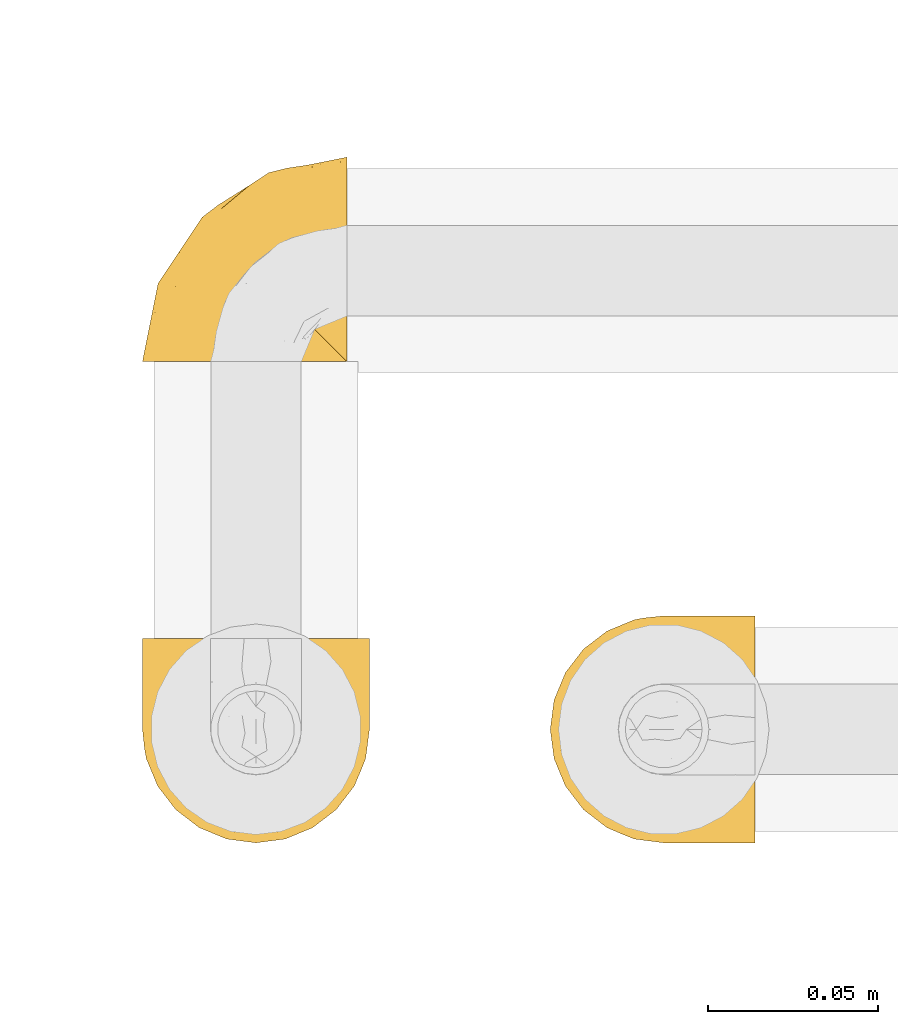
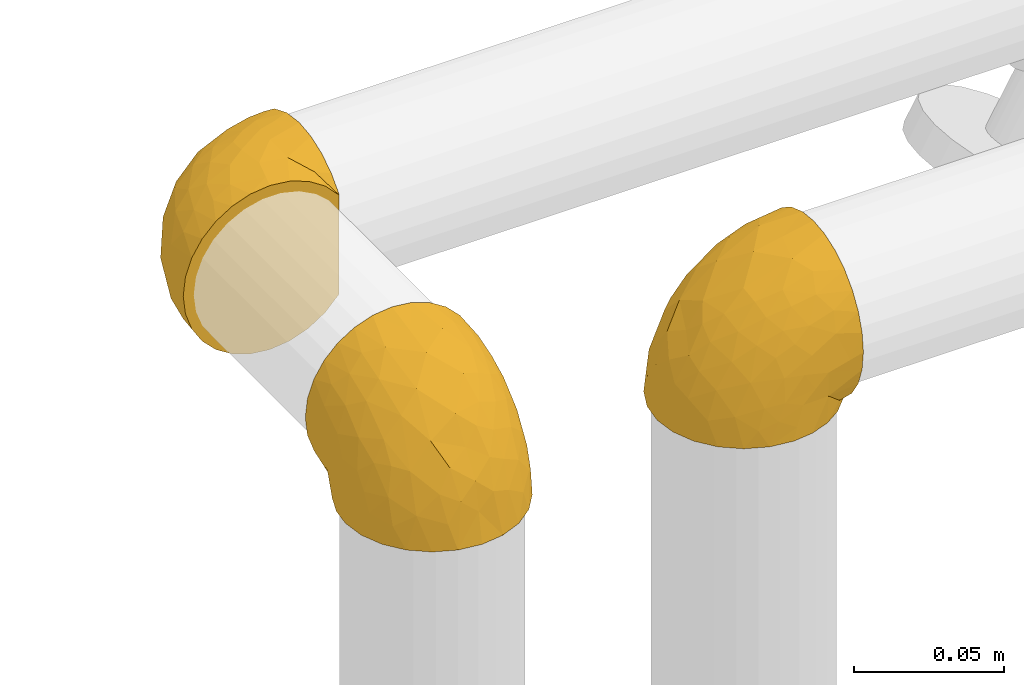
# One storey, part 14 of 108: 3 coverings.
"""IFC2X3 building model written with IfcOpenShell, lengths in millimetres."""

from ifc_helpers import new_model, entity, si_unit, converted_unit, derived_unit, direction, frame, origin_with_axes, place, context, subcontext, project, spatial, open_shell, surface_model, source, transform, mapped, element, save


model = new_model("IFC2X3")

# Units and contexts
model_context = context("Model", 3, precision=0.01, world=frame((0.0, 4.29681676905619e-09, 0.0)), true_north=direction((4.01073788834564e-13, 1.0)))
plan_context = context("Plan", 3, precision=0.01, world=frame((0.0, 4.29681676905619e-09, 0.0)), true_north=direction((4.01073788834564e-13, 1.0)))
body_context = subcontext(model_context, "Body", "Model", "MODEL_VIEW")
ifc_project = project(units=[converted_unit("PLANEANGLEUNIT", "DEGREE", entity("IfcPositiveLengthMeasure", 0.0174532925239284), si_unit("PLANEANGLEUNIT", "RADIAN"), dimensions=[0, 0, 0, 0, 0, 0, 0]), si_unit("AREAUNIT", "SQUARE_METRE"), si_unit("LENGTHUNIT", "METRE", prefix="MILLI"), si_unit("MASSUNIT", "GRAM", prefix="KILO"), si_unit("POWERUNIT", "WATT"), si_unit("PRESSUREUNIT", "PASCAL", prefix="KILO"), si_unit("FORCEUNIT", "NEWTON", prefix="KILO"), si_unit("ELECTRICVOLTAGEUNIT", "VOLT"), si_unit("ELECTRICCURRENTUNIT", "AMPERE"), si_unit("THERMODYNAMICTEMPERATUREUNIT", "DEGREE_CELSIUS"), si_unit("TIMEUNIT", "SECOND"), si_unit("VOLUMEUNIT", "CUBIC_METRE"), derived_unit("LINEARVELOCITYUNIT", [(si_unit("LENGTHUNIT", "METRE"), 1), (si_unit("TIMEUNIT", "SECOND"), -1)]), derived_unit("VOLUMETRICFLOWRATEUNIT", [(si_unit("VOLUMEUNIT", "CUBIC_METRE"), 1), (si_unit("TIMEUNIT", "SECOND"), -1)]), derived_unit("THERMALTRANSMITTANCEUNIT", [(si_unit("POWERUNIT", "WATT"), 1), (si_unit("THERMODYNAMICTEMPERATUREUNIT", "KELVIN"), -1), (si_unit("AREAUNIT", "SQUARE_METRE"), -1)]), derived_unit("SOUNDPRESSUREUNIT", [(si_unit("PRESSUREUNIT", "PASCAL"), 1)])], contexts=[model_context, plan_context])

# Site, building, storey
site_placement = place(None, frame((0.0, -4.29681676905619e-09, 0.0), z_axis=(0.0, 0.0, 1.0), x_axis=(1.0, 0.0, 0.0)))
site = spatial("IfcSite", under=ifc_project, at=site_placement, CompositionType="ELEMENT")
building_placement = place(site_placement, frame((0.0, 4.29681676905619e-09, 0.0), z_axis=(0.0, 0.0, 1.0), x_axis=(1.0, 0.0, 0.0)))
building = spatial("IfcBuilding", under=site, at=building_placement, Name="mc-building", CompositionType="ELEMENT")
storey_placement = place(building_placement, frame((0.0, 0.0, 210200.0), z_axis=(0.0, 0.0, 1.0), x_axis=(1.0, 0.0, 0.0)))
storey = spatial("IfcBuildingStorey", under=building, at=storey_placement, Name="Nivå F - 0,7 m", CompositionType="ELEMENT", Elevation=210200.0)

# Coverings
shared_shape_1 = source(origin_with_axes(), body_context, "Body", "SurfaceModel", [
    surface_model("IfcShellBasedSurfaceModel", [(-26.59933, 26.8, -20.19989), (14.49698, 26.8, 30.08982), (20.82965, 26.8, 26.10911), (7.43591, 26.8, 32.56174), (30.09469, 26.8, 14.48688), (26.11705, 26.8, 20.8197), (-7.61575, 26.8, 32.52015), (0.0, 26.8, 33.4), (-14.84079, 26.8, 29.92175), (-21.28222, 26.8, 25.74155), (-26.59933, 26.8, 20.19989), (32.56356, 26.8, 7.42795), (32.56174, 26.8, -7.43591), (20.8197, 26.8, -26.11705), (30.08982, 26.8, -14.49698), (26.10911, 26.8, -20.82965), (14.48688, 26.8, -30.09469), (-14.85378, 26.8, -29.9153), (-21.29273, 26.8, -25.73285), (-7.62903, 26.8, -32.51704), (0.0, 26.8, -33.4), (7.42795, 26.8, -32.56356), (33.4, 26.8, 0.0), (-26.8, 26.59933, 20.19989), (-26.8, 26.59933, -20.19989), (-26.8, 21.28541, -25.73891), (-26.8, -16.7, 28.92525), (-26.8, 7.625, -32.51798), (-26.8, 14.84729, -29.91852), (-26.8, 21.28541, 25.73891), (-26.8, 14.84729, 29.91852), (-26.8, 7.625, 32.51798), (-26.8, 0.0, 33.4), (-26.8, 0.0, -33.4), (-26.8, -8.64456, -32.26192), (-26.8, -16.7, -28.92525), (-26.8, -28.92525, -16.7), (-26.8, -23.61737, -23.61737), (-26.8, -32.26192, 8.64456), (-26.8, -32.26192, -8.64456), (-26.8, -28.92525, 16.7), (-26.8, -23.61737, 23.61737), (-26.8, -8.64456, 32.26192), (-26.8, -33.4, 0.0), (-26.65811, 26.65811, 20.19989), (-26.65811, 26.65811, -20.19989), (-3.59052, 13.4, -33.4), (-14.10738, 14.10738, -32.20619), (-20.71031, 20.7088, -28.01428), (-13.4, 3.59052, -33.4), (22.62475, -5.33199, -9.04686), (29.67814, 12.24249, -11.03588), (28.81755, 3.76246, 0.0), (-17.41333, -5.40422, -32.71199), (-10.81992, -2.87751, -32.67817), (-2.50397, -12.95586, -26.90413), (-6.20974, -22.36013, -20.33263), (-14.60118, -18.72663, -26.498), (-11.65277, -9.76865, -30.85758), (-19.92672, -12.18029, -30.85758), (14.01675, 8.91063, -28.28367), (16.95201, 18.32663, -28.28367), (22.01758, 14.21824, -23.62187), (-8.49526, 8.49526, -33.4), (-1.88305, 4.56584, -32.74246), (-1.39535, 21.5925, -33.4), (20.38741, -4.44287, -15.09757), (-9.28969, -30.19143, -6.19338), (-11.80357, -28.87318, -12.78163), (31.02556, 14.86288, 0.0), (-17.43006, -25.66791, -20.33263), (12.40454, -12.19742, -17.42016), (16.99405, -3.26243, -20.56333), (4.42213, 7.82936, -31.95022), (9.82976, 17.35952, -31.52731), (27.27262, 16.3281, -17.77511), (5.37566, -4.05607, -28.27426), (-1.66631, -2.38611, -31.27747), (19.74712, 5.19083, -22.68044), (23.64485, 4.69058, -17.77511), (15.71469, -13.49712, -10.28263), (-1.78193, -24.90857, -13.28821), (1.34186, -25.45443, -7.48471), (7.55106, -19.88386, -12.02521), (11.06736, -19.34151, -5.81066), (15.76783, -15.76783, 0.0), (22.29269, -6.00269, 0.0), (-14.86288, -31.02556, 0.0), (3.58657, -16.57256, -20.76855), (9.12505, -8.56732, -23.62187), (-21.5925, 1.39535, -33.4), (13.38763, 0.29861, -25.69445), (9.05147, 2.85542, -29.14565), (-3.76246, -28.81755, 0.0), (6.00269, -22.29269, 0.0), (-16.50258, -11.41869, 30.85758), (-9.29926, -30.16029, 6.36362), (10.03572, -18.35732, 11.17328), (22.63758, -5.31419, 9.0431), (22.02718, 14.21939, 23.61286), (27.27983, 16.33184, 17.76497), (-8.58328, -16.66994, 26.498), (-13.36918, -24.778, 20.33263), (1.18641, -19.1955, 19.60506), (14.02917, 8.91373, 28.2773), (16.96281, 18.32909, 28.2773), (9.83902, 17.35883, 31.52411), (16.35267, -8.40595, 16.75726), (-14.05627, -3.96609, 32.76122), (-13.4, 3.59052, 33.4), (-20.1, 1.79526, 33.4), (-1.39535, 21.5925, 33.4), (-16.50979, -30.46993, 11.41984), (-18.50904, -19.59768, 26.498), (1.90314, -25.11025, 7.62786), (-5.9027, -26.93732, 12.78163), (29.68263, 12.24709, 11.02673), (1.27035, -8.97434, 27.69292), (-9.65652, -8.34207, 31.05242), (23.65471, 4.69721, 17.76497), (-8.70974, -0.6027, 32.85017), (-2.69469, 3.074, 32.65331), (-3.59052, 13.4, 33.4), (-8.49526, 8.49526, 33.4), (17.70815, 3.10689, 23.61312), (4.42481, 7.81804, 31.94773), (-20.55519, -5.70678, 32.80023), (9.14496, -8.55993, 23.61286), (7.10655, -0.78083, 28.80438), (1.84006, -14.23266, 23.98947), (-3.56904, -4.10027, 31.22385), (-14.10785, 14.10785, 32.20601), (-20.70999, 20.70913, 28.01428)], [open_shell([[[0, 1, 2]], [[3, 1, 0]], [[4, 2, 5]], [[2, 4, 0]], [[6, 7, 8]], [[0, 7, 3]], [[9, 0, 10]], [[8, 7, 0]], [[9, 8, 0]], [[4, 11, 0]], [[0, 11, 12]], [[13, 12, 14]], [[12, 13, 0]], [[13, 14, 15]], [[16, 0, 13]], [[0, 17, 18]], [[17, 0, 19]], [[0, 20, 19]], [[20, 0, 21]], [[0, 16, 21]], [[12, 11, 22]], [[23, 24, 25]], [[26, 23, 25]], [[27, 25, 28]], [[25, 27, 26]], [[29, 23, 30]], [[23, 31, 30]], [[31, 23, 32]], [[32, 23, 26]], [[27, 33, 34]], [[34, 35, 36]], [[34, 36, 26]], [[36, 35, 37]], [[38, 36, 39]], [[26, 40, 41]], [[42, 32, 26]], [[36, 40, 26]], [[36, 38, 40]], [[43, 38, 39]], [[26, 27, 34]], [[24, 23, 44]], [[45, 24, 44]], [[10, 0, 44]], [[45, 44, 0]], [[46, 47, 19]], [[25, 48, 28]], [[33, 27, 49]], [[49, 27, 47]], [[47, 28, 48]], [[25, 24, 45]], [[45, 0, 18]], [[17, 48, 18]], [[47, 46, 49]], [[17, 19, 47]], [[19, 20, 46]], [[47, 48, 17]], [[27, 28, 47]], [[45, 18, 48]], [[48, 25, 45]], [[50, 51, 52]], [[53, 49, 54]], [[55, 56, 57]], [[58, 59, 53]], [[60, 61, 62]], [[63, 64, 54]], [[65, 20, 21]], [[51, 50, 66]], [[67, 39, 68]], [[51, 12, 69]], [[70, 36, 37]], [[35, 59, 57]], [[35, 57, 37]], [[36, 70, 68]], [[59, 35, 34]], [[71, 72, 66]], [[73, 46, 74]], [[65, 21, 74]], [[15, 14, 75]], [[62, 13, 15]], [[74, 46, 65]], [[74, 21, 16]], [[61, 74, 16]], [[76, 55, 77]], [[74, 60, 73]], [[78, 79, 72]], [[78, 62, 79]], [[71, 66, 80]], [[67, 81, 82]], [[51, 14, 12]], [[52, 51, 69]], [[79, 75, 51]], [[36, 68, 39]], [[75, 62, 15]], [[83, 84, 82]], [[13, 61, 16]], [[81, 83, 82]], [[85, 50, 86]], [[39, 67, 87]], [[71, 88, 89]], [[54, 64, 77]], [[55, 57, 58]], [[70, 57, 56]], [[34, 33, 90]], [[60, 91, 92]], [[73, 77, 64]], [[12, 22, 69]], [[51, 75, 14]], [[62, 75, 79]], [[62, 61, 13]], [[74, 61, 60]], [[77, 55, 58]], [[55, 89, 88]], [[54, 58, 53]], [[91, 76, 92]], [[87, 67, 93]], [[87, 43, 39]], [[84, 85, 94]], [[94, 93, 82]], [[67, 82, 93]], [[80, 84, 83]], [[94, 82, 84]], [[81, 67, 68]], [[68, 56, 81]], [[88, 81, 56]], [[71, 80, 83]], [[80, 50, 85]], [[83, 81, 88]], [[72, 71, 89]], [[83, 88, 71]], [[55, 88, 56]], [[91, 72, 89]], [[66, 72, 79]], [[76, 91, 89]], [[78, 60, 62]], [[55, 76, 89]], [[92, 77, 73]], [[51, 66, 79]], [[66, 50, 80]], [[72, 91, 78]], [[60, 78, 91]], [[77, 92, 76]], [[73, 64, 46]], [[73, 60, 92]], [[57, 70, 37]], [[68, 70, 56]], [[53, 34, 90]], [[57, 59, 58]], [[34, 53, 59]], [[49, 53, 90]], [[63, 54, 49]], [[77, 58, 54]], [[50, 52, 86]], [[85, 84, 80]], [[46, 64, 63]], [[26, 95, 42]], [[93, 96, 87]], [[97, 85, 98]], [[96, 38, 87]], [[99, 100, 5]], [[101, 102, 103]], [[104, 105, 106]], [[107, 103, 97]], [[108, 109, 110]], [[3, 111, 106]], [[112, 102, 40]], [[3, 7, 111]], [[41, 113, 26]], [[26, 113, 95]], [[1, 3, 106]], [[114, 97, 115]], [[98, 52, 116]], [[101, 117, 118]], [[119, 100, 99]], [[2, 99, 5]], [[38, 96, 112]], [[116, 4, 100]], [[116, 69, 11]], [[2, 1, 105]], [[108, 120, 109]], [[121, 122, 123]], [[124, 119, 99]], [[104, 106, 125]], [[106, 122, 125]], [[4, 116, 11]], [[40, 102, 41]], [[105, 99, 2]], [[98, 116, 119]], [[124, 99, 104]], [[98, 107, 97]], [[4, 5, 100]], [[98, 85, 86]], [[122, 106, 111]], [[95, 108, 126]], [[127, 128, 117]], [[128, 104, 125]], [[103, 102, 115]], [[113, 102, 101]], [[123, 120, 121]], [[128, 127, 124]], [[97, 103, 115]], [[129, 127, 117]], [[114, 115, 96]], [[98, 119, 107]], [[69, 116, 52]], [[69, 22, 11]], [[42, 126, 32]], [[116, 100, 119]], [[106, 105, 1]], [[99, 105, 104]], [[121, 128, 125]], [[120, 123, 109]], [[117, 128, 130]], [[38, 43, 87]], [[94, 114, 93]], [[96, 115, 112]], [[97, 94, 85]], [[93, 114, 96]], [[94, 97, 114]], [[102, 112, 115]], [[40, 38, 112]], [[126, 108, 110]], [[118, 108, 95]], [[124, 107, 119]], [[103, 107, 127]], [[32, 126, 110]], [[95, 126, 42]], [[128, 124, 104]], [[107, 124, 127]], [[118, 117, 130]], [[129, 101, 103]], [[102, 113, 41]], [[95, 113, 101]], [[101, 118, 95]], [[120, 118, 130]], [[118, 120, 108]], [[120, 130, 121]], [[128, 121, 130]], [[122, 121, 125]], [[101, 129, 117]], [[103, 127, 129]], [[86, 52, 98]], [[31, 32, 109]], [[131, 8, 132]], [[31, 131, 30]], [[132, 29, 30]], [[23, 29, 44]], [[122, 131, 109]], [[122, 7, 6]], [[31, 109, 131]], [[132, 44, 29]], [[8, 9, 132]], [[9, 10, 44]], [[44, 132, 9]], [[6, 8, 131]], [[122, 6, 131]], [[132, 30, 131]]])]),
])
covering_1_placement = place(storey_placement, frame((343668.98104, 460323.91341, 2545.47687000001), z_axis=(0.0, 1.0, 0.0), x_axis=(0.0, 0.0, 1.0)))
element("IfcCovering", 1, at=covering_1_placement, inside=storey, Name="BI10T - Cellegummi 18-32 mm kalde rør", PredefinedType="INSULATION", context=body_context, shape_type="MappedRepresentation", body=[
    mapped(shared_shape_1, transform((0.0, 0.0, 0.0), scale=1.0)),
])
shared_shape_2 = source(origin_with_axes(), body_context, "Body", "SurfaceModel", [
    surface_model("IfcShellBasedSurfaceModel", [(14.50157, 26.79293, 30.08982), (20.83424, 26.79184, 26.10911), (30.09928, 26.79025, 14.48688), (-26.59474, 26.79997, -20.19989), (0.00459, 26.79541, 33.4), (26.12164, 26.79094, 20.8197), (-7.61116, 26.79671, 32.52015), (-14.8362, 26.79795, 29.92175), (7.4405, 26.79414, 32.56174), (-26.59474, 26.79997, 20.19989), (-21.27762, 26.79905, 25.74155), (32.56815, 26.78983, 7.42795), (33.40459, 26.78969, 0.0), (32.56634, 26.78983, -7.43591), (30.09441, 26.79025, -14.49698), (20.82429, 26.79184, -26.11705), (14.49147, 26.79293, -30.09469), (26.1137, 26.79094, -20.82965), (-14.84919, 26.79795, -29.9153), (-21.28814, 26.79906, -25.73285), (-7.62444, 26.79672, -32.51704), (0.00459, 26.79541, -33.4), (7.43255, 26.79414, -32.56356), (-26.79541, 26.59933, 20.19989), (-26.79541, 26.59933, -20.19989), (-26.79541, 21.28541, -25.73891), (-26.79541, -16.7, 28.92525), (-26.79541, 7.625, -32.51798), (-26.79541, 14.84729, -29.91852), (-26.79541, 21.28541, 25.73891), (-26.79541, 14.84729, 29.91852), (-26.79541, 7.625, 32.51798), (-26.79541, 0.0, 33.4), (-26.79541, 0.0, -33.4), (-26.79541, -8.64456, -32.26192), (-26.79541, -16.7, -28.92525), (-26.79541, -28.92525, -16.7), (-26.79541, -23.61737, -23.61737), (-26.79541, -32.26192, 8.64456), (-26.79541, -32.26192, -8.64456), (-26.79541, -28.92525, 16.7), (-26.79541, -23.61737, 23.61737), (-26.79541, -8.64456, 32.26192), (-26.79541, -33.4, 0.0), (-26.65353, 26.6581, 20.19989), (-26.65353, 26.6581, -20.19989), (-3.58746, 13.39735, -33.4), (-14.10312, 14.10553, -32.20649), (-20.70624, 20.70828, -28.01428), (-13.39674, 3.58975, -33.4), (22.62329, -5.34155, -9.04638), (29.68024, 12.23282, -11.03588), (28.81918, 3.75531, 0.0), (-17.40908, -5.40436, -32.71198), (-10.81569, -2.87783, -32.67814), (-2.50277, -12.9567, -26.9049), (-6.20934, -22.36188, -20.33263), (-14.5968, -18.72668, -26.498), (-11.6487, -9.76887, -30.85758), (-19.92244, -12.18035, -30.85758), (14.01828, 8.90366, -28.28367), (16.95515, 18.31914, -28.28367), (22.02002, 14.20989, -23.62187), (-8.4921, 8.49355, -33.4), (-1.88189, 4.56182, -32.74244), (-1.3915, 21.58809, -33.4), (20.3843, -4.45374, -15.09839), (-9.28633, -30.19178, -6.19357), (-11.80058, -28.87361, -12.78163), (31.02836, 14.85291, 0.0), (-17.42795, -25.66835, -20.33263), (12.40552, -12.20028, -17.42106), (16.99363, -3.26677, -20.56546), (4.42338, 7.82396, -31.95023), (9.83273, 17.35325, -31.52731), (27.27542, 16.31885, -17.77511), (5.37376, -4.06498, -28.27333), (-1.66342, -2.38927, -31.27699), (19.75012, 5.18516, -22.67942), (23.64566, 4.68196, -17.77511), (15.71323, -13.50262, -10.28451), (-1.78102, -24.90997, -13.289), (1.34349, -25.45544, -7.48693), (7.55068, -19.88625, -12.02784), (11.06831, -19.34413, -5.8123), (15.76877, -15.77147, 0.0), (22.29397, -6.00808, 0.0), (-14.85822, -31.02581, 0.0), (3.58709, -16.57669, -20.76723), (9.12361, -8.57344, -23.62187), (-21.58786, 1.3952, -33.4), (13.3847, 0.29091, -25.69614), (9.04677, 2.85043, -29.14842), (-3.76025, -28.81854, 0.0), (6.00426, -22.29501, 0.0), (-16.49908, -11.41898, 30.85758), (-9.29591, -30.16061, 6.3639), (10.03611, -18.35986, 11.17522), (22.63612, -5.32374, 9.04263), (22.02961, 14.21103, 23.61286), (27.28263, 16.32259, 17.76497), (-8.58239, -16.6715, 26.498), (-13.36463, -24.77801, 20.33263), (1.18808, -19.19802, 19.60419), (14.0307, 8.90675, 28.2773), (16.96595, 18.32161, 28.2773), (9.842, 17.35256, 31.52411), (16.35499, -8.41017, 16.7557), (-14.053, -3.96663, 32.76122), (-13.39674, 3.58975, 33.4), (-20.09607, 1.79488, 33.4), (-1.3915, 21.58809, 33.4), (-16.50573, -30.46979, 11.42048), (-18.50665, -19.59807, 26.498), (1.90629, -25.11112, 7.62758), (-5.89824, -26.93737, 12.78163), (29.68473, 12.23743, 11.02673), (1.27023, -8.97848, 27.69268), (-9.65182, -8.34248, 31.05226), (23.65552, 4.68859, 17.76497), (-8.70536, -0.60336, 32.85009), (-2.69074, 3.07373, 32.65337), (-3.58746, 13.39735, 33.4), (-8.4921, 8.49355, 33.4), (17.70868, 3.09927, 23.61312), (4.42606, 7.81264, 31.94774), (-20.55152, -5.70638, 32.80034), (9.14352, -8.56606, 23.61286), (7.10643, -0.78662, 28.80438), (1.83777, -14.23747, 23.98947), (-3.5632, -4.10036, 31.22353), (-14.10358, 14.106, 32.20631), (-20.70592, 20.70861, 28.01428)], [open_shell([[[0, 1, 2]], [[0, 3, 4]], [[2, 1, 5]], [[2, 3, 0]], [[6, 4, 7]], [[4, 8, 0]], [[7, 9, 10]], [[7, 4, 3]], [[7, 3, 9]], [[2, 11, 12]], [[13, 14, 2]], [[2, 14, 3]], [[15, 16, 14]], [[15, 14, 17]], [[3, 14, 16]], [[3, 18, 19]], [[18, 3, 20]], [[3, 21, 20]], [[21, 3, 22]], [[3, 16, 22]], [[2, 12, 13]], [[23, 24, 25]], [[26, 23, 25]], [[27, 25, 28]], [[25, 27, 26]], [[29, 23, 30]], [[23, 31, 30]], [[31, 23, 32]], [[32, 23, 26]], [[27, 33, 34]], [[34, 35, 36]], [[34, 36, 26]], [[36, 35, 37]], [[38, 36, 39]], [[26, 40, 41]], [[42, 32, 26]], [[36, 40, 26]], [[36, 38, 40]], [[43, 38, 39]], [[26, 27, 34]], [[24, 23, 44]], [[45, 24, 44]], [[9, 3, 44]], [[45, 44, 3]], [[46, 47, 20]], [[25, 48, 28]], [[33, 27, 49]], [[49, 27, 47]], [[47, 28, 48]], [[25, 24, 45]], [[45, 3, 19]], [[18, 48, 19]], [[47, 46, 49]], [[18, 20, 47]], [[20, 21, 46]], [[47, 48, 18]], [[27, 28, 47]], [[45, 19, 48]], [[48, 25, 45]], [[50, 51, 52]], [[53, 49, 54]], [[55, 56, 57]], [[58, 59, 53]], [[60, 61, 62]], [[63, 64, 54]], [[65, 21, 22]], [[51, 50, 66]], [[67, 39, 68]], [[51, 13, 69]], [[70, 36, 37]], [[35, 59, 57]], [[35, 57, 37]], [[36, 70, 68]], [[59, 35, 34]], [[71, 72, 66]], [[73, 46, 74]], [[65, 22, 74]], [[17, 14, 75]], [[62, 15, 17]], [[74, 46, 65]], [[74, 22, 16]], [[61, 74, 16]], [[76, 55, 77]], [[74, 60, 73]], [[78, 79, 72]], [[78, 62, 79]], [[71, 66, 80]], [[67, 81, 82]], [[51, 14, 13]], [[52, 51, 69]], [[79, 75, 51]], [[36, 68, 39]], [[75, 62, 17]], [[83, 84, 82]], [[15, 61, 16]], [[81, 83, 82]], [[85, 50, 86]], [[39, 67, 87]], [[71, 88, 89]], [[54, 64, 77]], [[34, 33, 90]], [[55, 57, 58]], [[70, 57, 56]], [[60, 91, 92]], [[73, 77, 64]], [[13, 12, 69]], [[51, 75, 14]], [[62, 75, 79]], [[62, 61, 15]], [[74, 61, 60]], [[77, 55, 58]], [[55, 89, 88]], [[54, 58, 53]], [[91, 76, 92]], [[87, 67, 93]], [[87, 43, 39]], [[84, 85, 94]], [[94, 93, 82]], [[67, 82, 93]], [[80, 84, 83]], [[94, 82, 84]], [[81, 67, 68]], [[68, 56, 81]], [[88, 81, 56]], [[71, 80, 83]], [[80, 50, 85]], [[83, 81, 88]], [[72, 71, 89]], [[83, 88, 71]], [[55, 88, 56]], [[91, 72, 89]], [[66, 72, 79]], [[76, 91, 89]], [[78, 60, 62]], [[55, 76, 89]], [[92, 77, 73]], [[51, 66, 79]], [[66, 50, 80]], [[72, 91, 78]], [[60, 78, 91]], [[77, 92, 76]], [[73, 64, 46]], [[73, 60, 92]], [[57, 70, 37]], [[68, 70, 56]], [[53, 34, 90]], [[57, 59, 58]], [[34, 53, 59]], [[49, 53, 90]], [[63, 54, 49]], [[77, 58, 54]], [[50, 52, 86]], [[85, 84, 80]], [[46, 64, 63]], [[26, 95, 42]], [[93, 96, 87]], [[97, 85, 98]], [[96, 38, 87]], [[99, 100, 5]], [[101, 102, 103]], [[104, 105, 106]], [[107, 103, 97]], [[108, 109, 110]], [[8, 111, 106]], [[112, 102, 40]], [[8, 4, 111]], [[41, 113, 26]], [[26, 113, 95]], [[0, 8, 106]], [[114, 97, 115]], [[98, 52, 116]], [[101, 117, 118]], [[119, 100, 99]], [[1, 99, 5]], [[38, 96, 112]], [[116, 2, 100]], [[116, 69, 11]], [[1, 0, 105]], [[108, 120, 109]], [[121, 122, 123]], [[124, 119, 99]], [[104, 106, 125]], [[106, 122, 125]], [[2, 116, 11]], [[40, 102, 41]], [[105, 99, 1]], [[98, 116, 119]], [[124, 99, 104]], [[98, 107, 97]], [[2, 5, 100]], [[98, 85, 86]], [[122, 106, 111]], [[95, 108, 126]], [[127, 128, 117]], [[128, 104, 125]], [[103, 102, 115]], [[113, 102, 101]], [[123, 120, 121]], [[128, 127, 124]], [[97, 103, 115]], [[129, 127, 117]], [[114, 115, 96]], [[98, 119, 107]], [[69, 116, 52]], [[69, 12, 11]], [[42, 126, 32]], [[116, 100, 119]], [[106, 105, 0]], [[99, 105, 104]], [[121, 128, 125]], [[120, 123, 109]], [[117, 128, 130]], [[38, 43, 87]], [[94, 114, 93]], [[96, 115, 112]], [[97, 94, 85]], [[93, 114, 96]], [[94, 97, 114]], [[102, 112, 115]], [[40, 38, 112]], [[126, 108, 110]], [[118, 108, 95]], [[124, 107, 119]], [[103, 107, 127]], [[32, 126, 110]], [[95, 126, 42]], [[128, 124, 104]], [[107, 124, 127]], [[118, 117, 130]], [[129, 101, 103]], [[102, 113, 41]], [[95, 113, 101]], [[101, 118, 95]], [[120, 118, 130]], [[118, 120, 108]], [[120, 130, 121]], [[128, 121, 130]], [[122, 121, 125]], [[101, 129, 117]], [[103, 127, 129]], [[86, 52, 98]], [[31, 32, 109]], [[131, 7, 132]], [[31, 131, 30]], [[132, 29, 30]], [[23, 29, 44]], [[122, 131, 109]], [[122, 4, 6]], [[31, 109, 131]], [[132, 44, 29]], [[7, 10, 132]], [[10, 9, 44]], [[44, 132, 10]], [[6, 7, 131]], [[122, 6, 131]], [[132, 30, 131]]])]),
])
covering_2_placement = place(storey_placement, frame((343548.98104, 460323.91341, 2545.47687000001), z_axis=(-1.0, 0.0, 0.0), x_axis=(0.0, 0.0, 1.0)))
element("IfcCovering", 2, at=covering_2_placement, inside=storey, Name="BI10T - Cellegummi 18-32 mm kalde rør", PredefinedType="INSULATION", context=body_context, shape_type="MappedRepresentation", body=[
    mapped(shared_shape_2, transform((0.0, 0.0, 0.0), scale=1.0)),
])
shared_shape_3 = source(origin_with_axes(), body_context, "Body", "SurfaceModel", [
    surface_model("IfcShellBasedSurfaceModel", [(30.09469, 26.8, 14.48688), (20.82965, 26.8, 26.10911), (26.11705, 26.8, 20.8197), (-7.61575, 26.8, 32.52015), (0.0, 26.8, 33.4), (-14.84079, 26.8, 29.92175), (20.8197, 26.8, -26.11705), (30.08982, 26.8, -14.49698), (26.10911, 26.8, -20.82965), (-26.59933, 26.8, -20.19989), (-14.85378, 26.8, -29.9153), (-21.29273, 26.8, -25.73285), (-7.62903, 26.8, -32.51704), (0.0, 26.8, -33.4), (7.42795, 26.8, -32.56356), (14.48688, 26.8, -30.09469), (-26.8, 7.625, -32.51798), (-26.8, 21.28541, -25.73891), (-26.8, 14.84729, -29.91852), (-26.8, 0.0, -33.4), (-26.8, -8.64456, -32.26192), (-26.8, -16.7, -28.92525), (-26.8, -28.92525, -16.7), (-26.8, -23.61737, -23.61737), (-26.8, -32.26192, 8.64456), (-26.8, -32.26192, -8.64456), (-26.8, -16.7, 28.92525), (-26.8, -28.92525, 16.7), (-26.8, -23.61737, 23.61737), (-26.8, -8.64456, 32.26192), (-26.8, 0.0, 33.4), (-26.8, -33.4, 0.0), (-26.8, 26.59933, -20.19989), (-26.8, 26.59933, 20.19989), (-26.65811, 26.65811, 20.19989), (-26.65811, 26.65811, -20.19989), (-26.59933, 26.8, 20.19989), (-3.59052, 13.4, -33.4), (-14.10738, 14.10738, -32.20619), (-20.71031, 20.7088, -28.01428), (-13.4, 3.59052, -33.4), (22.62475, -5.33199, -9.04686), (29.67814, 12.24249, -11.03588), (28.81755, 3.76246, 0.0), (-17.41333, -5.40422, -32.71199), (-10.81992, -2.87751, -32.67817), (-2.50397, -12.95586, -26.90413), (-6.20974, -22.36013, -20.33263), (-14.60118, -18.72663, -26.498), (-11.65277, -9.76865, -30.85758), (-19.92672, -12.18029, -30.85758), (14.01675, 8.91063, -28.28367), (16.95201, 18.32663, -28.28367), (22.01758, 14.21824, -23.62187), (-8.49526, 8.49526, -33.4), (-1.88305, 4.56584, -32.74246), (-1.39535, 21.5925, -33.4), (20.38741, -4.44287, -15.09757), (-9.28969, -30.19143, -6.19338), (-11.80357, -28.87318, -12.78163), (32.56174, 26.8, -7.43591), (31.02556, 14.86288, 0.0), (-17.43006, -25.66791, -20.33263), (12.40454, -12.19742, -17.42016), (16.99405, -3.26243, -20.56333), (4.42213, 7.82936, -31.95022), (9.82976, 17.35952, -31.52731), (27.27262, 16.3281, -17.77511), (5.37566, -4.05607, -28.27426), (-1.66631, -2.38611, -31.27747), (19.74712, 5.19083, -22.68044), (23.64485, 4.69058, -17.77511), (15.71469, -13.49712, -10.28263), (-1.78193, -24.90857, -13.28821), (1.34186, -25.45443, -7.48471), (7.55106, -19.88386, -12.02521), (11.06736, -19.34151, -5.81066), (15.76783, -15.76783, 0.0), (22.29269, -6.00269, 0.0), (-14.86288, -31.02556, 0.0), (3.58657, -16.57256, -20.76855), (9.12505, -8.56732, -23.62187), (-21.5925, 1.39535, -33.4), (13.38763, 0.29861, -25.69445), (9.05147, 2.85542, -29.14565), (33.4, 26.8, 0.0), (-3.76246, -28.81755, 0.0), (6.00269, -22.29269, 0.0), (-16.50258, -11.41869, 30.85758), (-9.29926, -30.16029, 6.36362), (10.03572, -18.35732, 11.17328), (22.63758, -5.31419, 9.0431), (22.02718, 14.21939, 23.61286), (27.27983, 16.33184, 17.76497), (-8.58328, -16.66994, 26.498), (-13.36918, -24.778, 20.33263), (1.18641, -19.1955, 19.60506), (14.02917, 8.91373, 28.2773), (16.96281, 18.32909, 28.2773), (9.83902, 17.35883, 31.52411), (16.35267, -8.40595, 16.75726), (-14.05627, -3.96609, 32.76122), (-13.4, 3.59052, 33.4), (-20.1, 1.79526, 33.4), (7.43591, 26.8, 32.56174), (-1.39535, 21.5925, 33.4), (-16.50979, -30.46993, 11.41984), (-18.50904, -19.59768, 26.498), (14.49698, 26.8, 30.08982), (1.90314, -25.11025, 7.62786), (-5.9027, -26.93732, 12.78163), (29.68263, 12.24709, 11.02673), (1.27035, -8.97434, 27.69292), (-9.65652, -8.34207, 31.05242), (23.65471, 4.69721, 17.76497), (32.56356, 26.8, 7.42795), (-8.70974, -0.6027, 32.85017), (-2.69469, 3.074, 32.65331), (-3.59052, 13.4, 33.4), (-8.49526, 8.49526, 33.4), (17.70815, 3.10689, 23.61312), (4.42481, 7.81804, 31.94773), (-20.55519, -5.70678, 32.80023), (9.14496, -8.55993, 23.61286), (7.10655, -0.78083, 28.80438), (1.84006, -14.23266, 23.98947), (-3.56904, -4.10027, 31.22385), (-26.8, 7.625, 32.51798), (-14.10785, 14.10785, 32.20601), (-20.70999, 20.70913, 28.01428), (-26.8, 14.84729, 29.91852), (-26.8, 21.28541, 25.73891), (-21.28222, 26.8, 25.74155)], [open_shell([[[0, 1, 2]], [[3, 4, 5]], [[6, 7, 8]], [[9, 10, 11]], [[10, 9, 12]], [[9, 13, 12]], [[13, 9, 14]], [[9, 15, 14]], [[16, 17, 18]], [[16, 19, 20]], [[20, 21, 22]], [[22, 21, 23]], [[24, 22, 25]], [[26, 27, 28]], [[29, 30, 26]], [[22, 27, 26]], [[22, 24, 27]], [[31, 24, 25]], [[32, 33, 34]], [[35, 32, 34]], [[36, 9, 34]], [[35, 34, 9]], [[37, 38, 12]], [[17, 39, 18]], [[19, 16, 40]], [[40, 16, 38]], [[38, 18, 39]], [[17, 32, 35]], [[35, 9, 11]], [[10, 39, 11]], [[38, 37, 40]], [[10, 12, 38]], [[12, 13, 37]], [[38, 39, 10]], [[16, 18, 38]], [[35, 11, 39]], [[39, 17, 35]], [[41, 42, 43]], [[44, 40, 45]], [[46, 47, 48]], [[49, 50, 44]], [[51, 52, 53]], [[54, 55, 45]], [[56, 13, 14]], [[42, 41, 57]], [[58, 25, 59]], [[42, 60, 61]], [[62, 22, 23]], [[21, 50, 48]], [[21, 48, 23]], [[22, 62, 59]], [[50, 21, 20]], [[63, 64, 57]], [[65, 37, 66]], [[56, 14, 66]], [[8, 7, 67]], [[53, 6, 8]], [[66, 37, 56]], [[66, 14, 15]], [[52, 66, 15]], [[68, 46, 69]], [[66, 51, 65]], [[70, 71, 64]], [[70, 53, 71]], [[63, 57, 72]], [[58, 73, 74]], [[42, 7, 60]], [[43, 42, 61]], [[71, 67, 42]], [[22, 59, 25]], [[67, 53, 8]], [[75, 76, 74]], [[6, 52, 15]], [[73, 75, 74]], [[77, 41, 78]], [[25, 58, 79]], [[63, 80, 81]], [[45, 55, 69]], [[46, 48, 49]], [[62, 48, 47]], [[20, 19, 82]], [[51, 83, 84]], [[65, 69, 55]], [[60, 85, 61]], [[42, 67, 7]], [[53, 67, 71]], [[53, 52, 6]], [[66, 52, 51]], [[69, 46, 49]], [[46, 81, 80]], [[45, 49, 44]], [[83, 68, 84]], [[79, 58, 86]], [[79, 31, 25]], [[76, 77, 87]], [[87, 86, 74]], [[58, 74, 86]], [[72, 76, 75]], [[87, 74, 76]], [[73, 58, 59]], [[59, 47, 73]], [[80, 73, 47]], [[63, 72, 75]], [[72, 41, 77]], [[75, 73, 80]], [[64, 63, 81]], [[75, 80, 63]], [[46, 80, 47]], [[83, 64, 81]], [[57, 64, 71]], [[68, 83, 81]], [[70, 51, 53]], [[46, 68, 81]], [[84, 69, 65]], [[42, 57, 71]], [[57, 41, 72]], [[64, 83, 70]], [[51, 70, 83]], [[69, 84, 68]], [[65, 55, 37]], [[65, 51, 84]], [[48, 62, 23]], [[59, 62, 47]], [[44, 20, 82]], [[48, 50, 49]], [[20, 44, 50]], [[40, 44, 82]], [[54, 45, 40]], [[69, 49, 45]], [[41, 43, 78]], [[77, 76, 72]], [[37, 55, 54]], [[26, 88, 29]], [[86, 89, 79]], [[90, 77, 91]], [[89, 24, 79]], [[92, 93, 2]], [[94, 95, 96]], [[97, 98, 99]], [[100, 96, 90]], [[101, 102, 103]], [[104, 105, 99]], [[106, 95, 27]], [[104, 4, 105]], [[28, 107, 26]], [[26, 107, 88]], [[108, 104, 99]], [[109, 90, 110]], [[91, 43, 111]], [[94, 112, 113]], [[114, 93, 92]], [[1, 92, 2]], [[24, 89, 106]], [[111, 0, 93]], [[111, 61, 115]], [[1, 108, 98]], [[101, 116, 102]], [[117, 118, 119]], [[120, 114, 92]], [[97, 99, 121]], [[99, 118, 121]], [[0, 111, 115]], [[27, 95, 28]], [[98, 92, 1]], [[91, 111, 114]], [[120, 92, 97]], [[91, 100, 90]], [[0, 2, 93]], [[91, 77, 78]], [[118, 99, 105]], [[88, 101, 122]], [[123, 124, 112]], [[124, 97, 121]], [[96, 95, 110]], [[107, 95, 94]], [[119, 116, 117]], [[124, 123, 120]], [[90, 96, 110]], [[125, 123, 112]], [[109, 110, 89]], [[91, 114, 100]], [[61, 111, 43]], [[61, 85, 115]], [[29, 122, 30]], [[111, 93, 114]], [[99, 98, 108]], [[92, 98, 97]], [[117, 124, 121]], [[116, 119, 102]], [[112, 124, 126]], [[24, 31, 79]], [[87, 109, 86]], [[89, 110, 106]], [[90, 87, 77]], [[86, 109, 89]], [[87, 90, 109]], [[95, 106, 110]], [[27, 24, 106]], [[122, 101, 103]], [[113, 101, 88]], [[120, 100, 114]], [[96, 100, 123]], [[30, 122, 103]], [[88, 122, 29]], [[124, 120, 97]], [[100, 120, 123]], [[113, 112, 126]], [[125, 94, 96]], [[95, 107, 28]], [[88, 107, 94]], [[94, 113, 88]], [[116, 113, 126]], [[113, 116, 101]], [[116, 126, 117]], [[124, 117, 126]], [[118, 117, 121]], [[94, 125, 112]], [[96, 123, 125]], [[78, 43, 91]], [[127, 30, 102]], [[128, 5, 129]], [[127, 128, 130]], [[129, 131, 130]], [[33, 131, 34]], [[118, 128, 102]], [[118, 4, 3]], [[127, 102, 128]], [[129, 34, 131]], [[5, 132, 129]], [[132, 36, 34]], [[34, 129, 132]], [[3, 5, 128]], [[118, 3, 128]], [[129, 130, 128]], [[108, 1, 0]], [[108, 9, 4]], [[0, 9, 108]], [[4, 104, 108]], [[5, 36, 132]], [[9, 5, 4]], [[9, 36, 5]], [[0, 115, 85]], [[0, 60, 7]], [[9, 0, 7]], [[7, 6, 9]], [[6, 15, 9]], [[60, 0, 85]], [[32, 17, 16]], [[32, 16, 131]], [[16, 20, 131]], [[33, 32, 131]], [[130, 30, 127]], [[30, 130, 131]], [[131, 26, 30]], [[22, 26, 131]], [[131, 20, 22]]])]),
])
covering_3_placement = place(storey_placement, frame((343548.98104, 460458.91341, 2545.5), z_axis=(0.0, -0.000173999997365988, 0.999999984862), x_axis=(-1.0, 0.0, 0.0)))
element("IfcCovering", 3, at=covering_3_placement, inside=storey, Name="BI10T - Cellegummi 18-32 mm kalde rør", PredefinedType="INSULATION", context=body_context, shape_type="MappedRepresentation", body=[
    mapped(shared_shape_3, transform((0.0, 0.0, 0.0), scale=1.0)),
])

save(model, "model.ifc")
